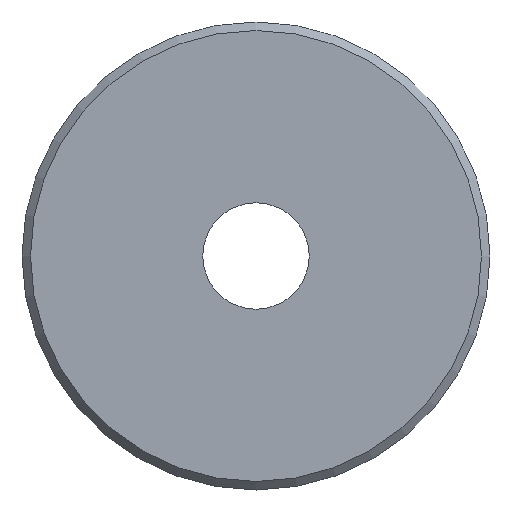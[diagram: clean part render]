
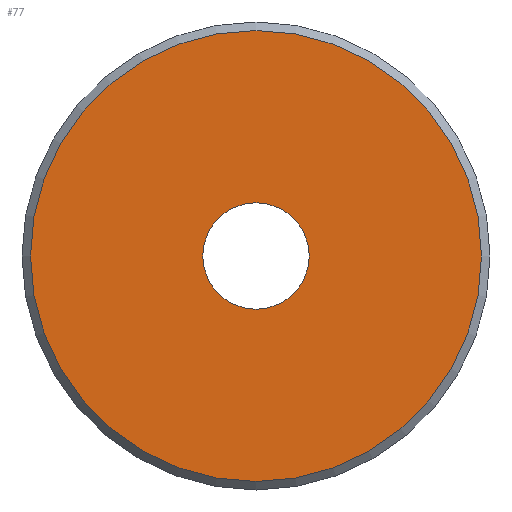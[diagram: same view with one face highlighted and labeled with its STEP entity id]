
A CAD part, front view. The second image highlights one B-rep face of the part: STEP entity #77.
In plain terms, the highlighted planar face has unit normal (0, -1, 0).
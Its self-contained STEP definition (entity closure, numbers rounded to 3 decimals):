
#21=FACE_BOUND('',#36,.T.);
#27=FACE_OUTER_BOUND('',#35,.T.);
#35=EDGE_LOOP('',(#65));
#36=EDGE_LOOP('',(#66));
#45=CIRCLE('',#87,12.5);
#46=CIRCLE('',#89,53.);
#51=VERTEX_POINT('',#128);
#52=VERTEX_POINT('',#131);
#57=EDGE_CURVE('',#51,#51,#45,.T.);
#58=EDGE_CURVE('',#52,#52,#46,.T.);
#65=ORIENTED_EDGE('',*,*,#58,.F.);
#66=ORIENTED_EDGE('',*,*,#57,.T.);
#74=PLANE('',#88);
#77=ADVANCED_FACE('',(#27,#21),#74,.T.);
#87=AXIS2_PLACEMENT_3D('',#129,#105,#106);
#88=AXIS2_PLACEMENT_3D('',#130,#107,#108);
#89=AXIS2_PLACEMENT_3D('',#132,#109,#110);
#105=DIRECTION('center_axis',(0.,1.,0.));
#106=DIRECTION('ref_axis',(1.,0.,0.));
#107=DIRECTION('center_axis',(0.,-1.,0.));
#108=DIRECTION('ref_axis',(0.,0.,-1.));
#109=DIRECTION('center_axis',(0.,1.,0.));
#110=DIRECTION('ref_axis',(1.,0.,0.));
#128=CARTESIAN_POINT('',(50.836,-2.922,0.));
#129=CARTESIAN_POINT('Origin',(63.336,-2.922,0.));
#130=CARTESIAN_POINT('Origin',(10.336,-2.922,0.));
#131=CARTESIAN_POINT('',(10.336,-2.922,0.));
#132=CARTESIAN_POINT('Origin',(63.336,-2.922,0.));
